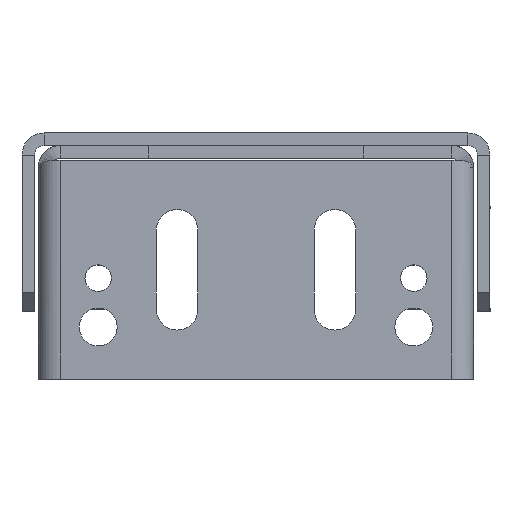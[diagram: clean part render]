
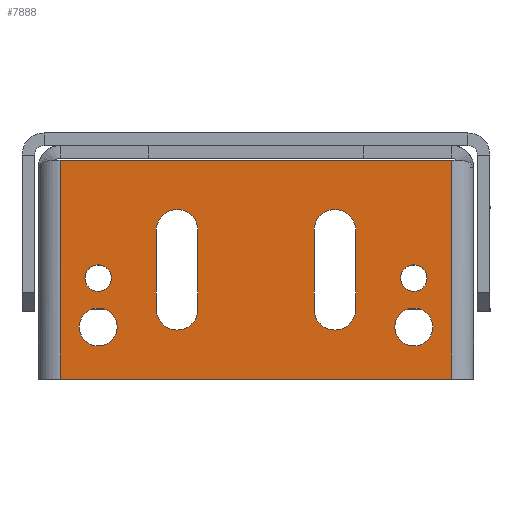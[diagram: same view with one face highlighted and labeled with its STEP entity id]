
A CAD part, left-side view. The second image highlights one B-rep face of the part: STEP entity #7888.
In plain terms, the highlighted planar face has unit normal (-1, 0, 0) as drawn and (0, 0, 1) by its records, which use the part's own axes.
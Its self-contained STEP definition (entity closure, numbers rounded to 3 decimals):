
#7888=ADVANCED_FACE('',(#15246,#15248,#15250,#15252,#15254,#15256,#15258),#15260,
.F.);
#15246=FACE_BOUND('',#15247,.T.);
#15247=EDGE_LOOP('',(#20629,#20630,#20631,#20632));
#15248=FACE_BOUND('',#15249,.T.);
#15249=EDGE_LOOP('',(#20633,#20634,#20635,#20636));
#15250=FACE_BOUND('',#15251,.T.);
#15251=EDGE_LOOP('',(#20637,#20638,#20639,#20640));
#15252=FACE_BOUND('',#15253,.T.);
#15253=EDGE_LOOP('',(#20641));
#15254=FACE_BOUND('',#15255,.T.);
#15255=EDGE_LOOP('',(#20642));
#15256=FACE_BOUND('',#15257,.T.);
#15257=EDGE_LOOP('',(#20643));
#15258=FACE_BOUND('',#15259,.T.);
#15259=EDGE_LOOP('',(#20644));
#15260=PLANE('',#15261);
#15261=AXIS2_PLACEMENT_3D('',#15262,#15263,#15264);
#15262=CARTESIAN_POINT('',(18.5,34.5,0.));
#15263=DIRECTION('',(0.,0.,-1.));
#15264=DIRECTION('',(-1.,0.,0.));
#20629=ORIENTED_EDGE('',*,*,#23241,.F.);
#20630=ORIENTED_EDGE('',*,*,#23242,.T.);
#20631=ORIENTED_EDGE('',*,*,#23243,.T.);
#20632=ORIENTED_EDGE('',*,*,#23244,.F.);
#20633=ORIENTED_EDGE('',*,*,#23245,.F.);
#20634=ORIENTED_EDGE('',*,*,#23246,.F.);
#20635=ORIENTED_EDGE('',*,*,#23247,.F.);
#20636=ORIENTED_EDGE('',*,*,#23146,.F.);
#20637=ORIENTED_EDGE('',*,*,#23248,.F.);
#20638=ORIENTED_EDGE('',*,*,#23249,.F.);
#20639=ORIENTED_EDGE('',*,*,#23250,.F.);
#20640=ORIENTED_EDGE('',*,*,#23150,.F.);
#20641=ORIENTED_EDGE('',*,*,#23185,.F.);
#20642=ORIENTED_EDGE('',*,*,#23187,.F.);
#20643=ORIENTED_EDGE('',*,*,#23189,.F.);
#20644=ORIENTED_EDGE('',*,*,#23191,.F.);
#23146=EDGE_CURVE('',#27274,#27276,#27277,.T.);
#23150=EDGE_CURVE('',#27282,#27284,#27285,.T.);
#23185=EDGE_CURVE('',#27349,#27349,#27350,.T.);
#23187=EDGE_CURVE('',#27353,#27353,#27354,.T.);
#23189=EDGE_CURVE('',#27357,#27357,#27358,.T.);
#23191=EDGE_CURVE('',#27361,#27361,#27362,.T.);
#23241=EDGE_CURVE('',#27451,#27452,#27453,.T.);
#23242=EDGE_CURVE('',#27451,#27454,#27455,.T.);
#23243=EDGE_CURVE('',#27454,#27456,#27457,.T.);
#23244=EDGE_CURVE('',#27452,#27456,#27458,.T.);
#23245=EDGE_CURVE('',#27459,#27274,#27460,.T.);
#23246=EDGE_CURVE('',#27461,#27459,#27462,.T.);
#23247=EDGE_CURVE('',#27276,#27461,#27463,.T.);
#23248=EDGE_CURVE('',#27464,#27282,#27465,.T.);
#23249=EDGE_CURVE('',#27466,#27464,#27467,.T.);
#23250=EDGE_CURVE('',#27284,#27466,#27468,.T.);
#27274=VERTEX_POINT('',#37106);
#27276=VERTEX_POINT('',#37110);
#27277=CIRCLE('',#37111,3.3);
#27282=VERTEX_POINT('',#37124);
#27284=VERTEX_POINT('',#37128);
#27285=CIRCLE('',#37129,3.3);
#27349=VERTEX_POINT('',#37293);
#27350=CIRCLE('',#37294,2.1);
#27353=VERTEX_POINT('',#37303);
#27354=CIRCLE('',#37304,3.);
#27357=VERTEX_POINT('',#37313);
#27358=CIRCLE('',#37314,2.1);
#27361=VERTEX_POINT('',#37323);
#27362=CIRCLE('',#37324,3.);
#27451=VERTEX_POINT('',#37517);
#27452=VERTEX_POINT('',#37518);
#27453=LINE('',#37519,#37520);
#27454=VERTEX_POINT('',#37522);
#27455=LINE('',#37523,#37524);
#27456=VERTEX_POINT('',#37526);
#27457=LINE('',#37527,#37528);
#27458=LINE('',#37530,#37531);
#27459=VERTEX_POINT('',#37533);
#27460=LINE('',#37534,#37535);
#27461=VERTEX_POINT('',#37537);
#27462=CIRCLE('',#37538,3.3);
#27463=LINE('',#37542,#37543);
#27464=VERTEX_POINT('',#37545);
#27465=LINE('',#37546,#37547);
#27466=VERTEX_POINT('',#37549);
#27467=CIRCLE('',#37550,3.3);
#27468=LINE('',#37554,#37555);
#37106=CARTESIAN_POINT('',(5.073,-15.8,0.));
#37110=CARTESIAN_POINT('',(5.073,-9.2,0.));
#37111=AXIS2_PLACEMENT_3D('',#37112,#37113,#37114);
#37112=CARTESIAN_POINT('',(5.073,-12.5,0.));
#37113=DIRECTION('',(0.,0.,1.));
#37114=DIRECTION('',(0.,-1.,0.));
#37124=CARTESIAN_POINT('',(5.073,9.2,0.));
#37128=CARTESIAN_POINT('',(5.073,15.8,0.));
#37129=AXIS2_PLACEMENT_3D('',#37130,#37131,#37132);
#37130=CARTESIAN_POINT('',(5.073,12.5,0.));
#37131=DIRECTION('',(0.,0.,1.));
#37132=DIRECTION('',(0.,-1.,0.));
#37293=CARTESIAN_POINT('',(-0.4,-25.,0.));
#37294=AXIS2_PLACEMENT_3D('',#37295,#37296,#37297);
#37295=CARTESIAN_POINT('',(-2.5,-25.,0.));
#37296=DIRECTION('',(0.,0.,1.));
#37297=DIRECTION('',(-1.,0.,0.));
#37303=CARTESIAN_POINT('',(-7.25,-25.,0.));
#37304=AXIS2_PLACEMENT_3D('',#37305,#37306,#37307);
#37305=CARTESIAN_POINT('',(-10.25,-25.,0.));
#37306=DIRECTION('',(0.,0.,1.));
#37307=DIRECTION('',(-1.,0.,0.));
#37313=CARTESIAN_POINT('',(-0.4,25.,0.));
#37314=AXIS2_PLACEMENT_3D('',#37315,#37316,#37317);
#37315=CARTESIAN_POINT('',(-2.5,25.,0.));
#37316=DIRECTION('',(0.,0.,1.));
#37317=DIRECTION('',(-1.,0.,0.));
#37323=CARTESIAN_POINT('',(-7.25,25.,0.));
#37324=AXIS2_PLACEMENT_3D('',#37325,#37326,#37327);
#37325=CARTESIAN_POINT('',(-10.25,25.,0.));
#37326=DIRECTION('',(0.,0.,1.));
#37327=DIRECTION('',(-1.,0.,0.));
#37517=CARTESIAN_POINT('',(16.146,31.,0.));
#37518=CARTESIAN_POINT('',(16.146,-31.,0.));
#37519=CARTESIAN_POINT('',(16.146,31.,0.));
#37520=VECTOR('',#37521,1.);
#37521=DIRECTION('',(0.,-1.,0.));
#37522=CARTESIAN_POINT('',(-18.5,31.,0.));
#37523=CARTESIAN_POINT('',(16.146,31.,0.));
#37524=VECTOR('',#37525,1.);
#37525=DIRECTION('',(-1.,0.,0.));
#37526=CARTESIAN_POINT('',(-18.5,-31.,0.));
#37527=CARTESIAN_POINT('',(-18.5,31.,0.));
#37528=VECTOR('',#37529,1.);
#37529=DIRECTION('',(0.,-1.,0.));
#37530=CARTESIAN_POINT('',(16.146,-31.,0.));
#37531=VECTOR('',#37532,1.);
#37532=DIRECTION('',(-1.,0.,0.));
#37533=CARTESIAN_POINT('',(-7.427,-15.8,0.));
#37534=CARTESIAN_POINT('',(-7.427,-15.8,0.));
#37535=VECTOR('',#37536,1.);
#37536=DIRECTION('',(1.,0.,0.));
#37537=CARTESIAN_POINT('',(-7.427,-9.2,0.));
#37538=AXIS2_PLACEMENT_3D('',#37539,#37540,#37541);
#37539=CARTESIAN_POINT('',(-7.427,-12.5,0.));
#37540=DIRECTION('',(0.,0.,1.));
#37541=DIRECTION('',(0.,1.,0.));
#37542=CARTESIAN_POINT('',(5.073,-9.2,0.));
#37543=VECTOR('',#37544,1.);
#37544=DIRECTION('',(-1.,0.,0.));
#37545=CARTESIAN_POINT('',(-7.427,9.2,0.));
#37546=CARTESIAN_POINT('',(-7.427,9.2,0.));
#37547=VECTOR('',#37548,1.);
#37548=DIRECTION('',(1.,0.,0.));
#37549=CARTESIAN_POINT('',(-7.427,15.8,0.));
#37550=AXIS2_PLACEMENT_3D('',#37551,#37552,#37553);
#37551=CARTESIAN_POINT('',(-7.427,12.5,0.));
#37552=DIRECTION('',(0.,0.,1.));
#37553=DIRECTION('',(0.,1.,0.));
#37554=CARTESIAN_POINT('',(5.073,15.8,0.));
#37555=VECTOR('',#37556,1.);
#37556=DIRECTION('',(-1.,0.,0.));
